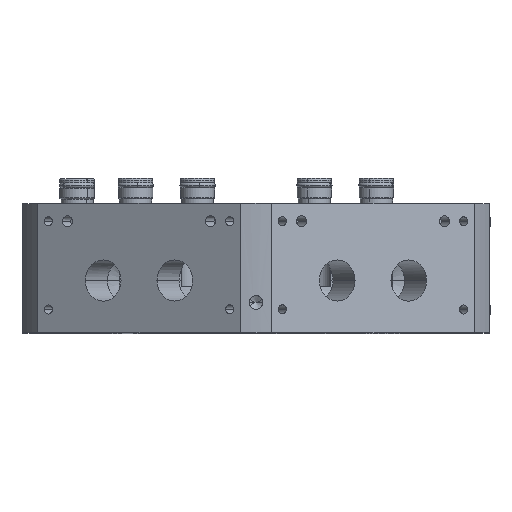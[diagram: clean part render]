
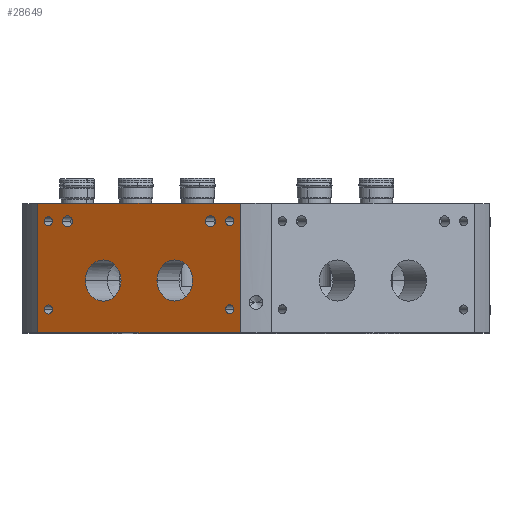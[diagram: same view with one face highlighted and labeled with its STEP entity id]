
A CAD part, top view. The second image highlights one B-rep face of the part: STEP entity #28649.
In plain terms, the highlighted planar face has unit normal (-0.5, 0, 0.866).
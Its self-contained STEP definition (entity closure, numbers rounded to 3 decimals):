
#3757=LINE('',#73834,#5422);
#3758=LINE('',#73837,#5423);
#3759=LINE('',#73839,#5424);
#3760=LINE('',#73841,#5425);
#5422=VECTOR('',#40162,1000.);
#5423=VECTOR('',#40163,1000.);
#5424=VECTOR('',#40164,1000.);
#5425=VECTOR('',#40165,1000.);
#12516=ORIENTED_EDGE('',*,*,#17904,.T.);
#12517=ORIENTED_EDGE('',*,*,#17905,.F.);
#12518=ORIENTED_EDGE('',*,*,#17906,.F.);
#12519=ORIENTED_EDGE('',*,*,#17907,.T.);
#12520=ORIENTED_EDGE('',*,*,#17840,.F.);
#12521=ORIENTED_EDGE('',*,*,#17908,.F.);
#12522=ORIENTED_EDGE('',*,*,#17831,.F.);
#12523=ORIENTED_EDGE('',*,*,#17909,.F.);
#12524=ORIENTED_EDGE('',*,*,#17476,.F.);
#12525=ORIENTED_EDGE('',*,*,#17910,.F.);
#12526=ORIENTED_EDGE('',*,*,#17466,.F.);
#12527=ORIENTED_EDGE('',*,*,#17911,.F.);
#12528=ORIENTED_EDGE('',*,*,#17462,.F.);
#12529=ORIENTED_EDGE('',*,*,#17912,.F.);
#12530=ORIENTED_EDGE('',*,*,#17455,.F.);
#12531=ORIENTED_EDGE('',*,*,#17913,.F.);
#12532=ORIENTED_EDGE('',*,*,#17368,.F.);
#12533=ORIENTED_EDGE('',*,*,#17914,.F.);
#12534=ORIENTED_EDGE('',*,*,#17363,.F.);
#12535=ORIENTED_EDGE('',*,*,#17915,.F.);
#17363=EDGE_CURVE('',#20435,#20433,#22201,.T.);
#17368=EDGE_CURVE('',#20439,#20437,#22204,.T.);
#17455=EDGE_CURVE('',#20512,#20510,#22237,.T.);
#17462=EDGE_CURVE('',#20518,#20515,#22238,.T.);
#17466=EDGE_CURVE('',#20522,#20520,#22240,.T.);
#17476=EDGE_CURVE('',#20530,#20528,#22243,.T.);
#17831=EDGE_CURVE('',#20804,#20800,#22464,.T.);
#17840=EDGE_CURVE('',#20812,#20808,#22467,.T.);
#17904=EDGE_CURVE('',#20841,#20842,#3757,.T.);
#17905=EDGE_CURVE('',#20843,#20842,#3758,.T.);
#17906=EDGE_CURVE('',#20844,#20843,#3759,.T.);
#17907=EDGE_CURVE('',#20844,#20841,#3760,.T.);
#17908=EDGE_CURVE('',#20808,#20812,#22505,.T.);
#17909=EDGE_CURVE('',#20800,#20804,#22506,.T.);
#17910=EDGE_CURVE('',#20528,#20530,#22507,.T.);
#17911=EDGE_CURVE('',#20520,#20522,#22508,.T.);
#17912=EDGE_CURVE('',#20515,#20518,#22509,.T.);
#17913=EDGE_CURVE('',#20510,#20512,#22510,.T.);
#17914=EDGE_CURVE('',#20437,#20439,#22511,.T.);
#17915=EDGE_CURVE('',#20433,#20435,#22512,.T.);
#20433=VERTEX_POINT('',#72087);
#20435=VERTEX_POINT('',#72091);
#20437=VERTEX_POINT('',#72098);
#20439=VERTEX_POINT('',#72102);
#20510=VERTEX_POINT('',#72337);
#20512=VERTEX_POINT('',#72341);
#20515=VERTEX_POINT('',#72350);
#20518=VERTEX_POINT('',#72385);
#20520=VERTEX_POINT('',#72390);
#20522=VERTEX_POINT('',#72394);
#20528=VERTEX_POINT('',#72418);
#20530=VERTEX_POINT('',#72432);
#20800=VERTEX_POINT('',#73568);
#20804=VERTEX_POINT('',#73595);
#20808=VERTEX_POINT('',#73609);
#20812=VERTEX_POINT('',#73639);
#20841=VERTEX_POINT('',#73835);
#20842=VERTEX_POINT('',#73836);
#20843=VERTEX_POINT('',#73838);
#20844=VERTEX_POINT('',#73840);
#22201=CIRCLE('',#31862,2.031);
#22204=CIRCLE('',#31867,2.031);
#22237=CIRCLE('',#31929,1.65);
#22238=CIRCLE('',#31932,1.65);
#22240=CIRCLE('',#31935,1.65);
#22243=CIRCLE('',#31941,1.65);
#22464=CIRCLE('',#32261,7.475);
#22467=CIRCLE('',#32266,7.475);
#22505=CIRCLE('',#32316,7.475);
#22506=CIRCLE('',#32317,7.475);
#22507=CIRCLE('',#32318,1.65);
#22508=CIRCLE('',#32319,1.65);
#22509=CIRCLE('',#32320,1.65);
#22510=CIRCLE('',#32321,1.65);
#22511=CIRCLE('',#32322,2.031);
#22512=CIRCLE('',#32323,2.031);
#24385=EDGE_LOOP('',(#12516,#12517,#12518,#12519));
#24386=EDGE_LOOP('',(#12520,#12521));
#24387=EDGE_LOOP('',(#12522,#12523));
#24388=EDGE_LOOP('',(#12524,#12525));
#24389=EDGE_LOOP('',(#12526,#12527));
#24390=EDGE_LOOP('',(#12528,#12529));
#24391=EDGE_LOOP('',(#12530,#12531));
#24392=EDGE_LOOP('',(#12532,#12533));
#24393=EDGE_LOOP('',(#12534,#12535));
#26403=FACE_BOUND('',#24385,.T.);
#26404=FACE_BOUND('',#24386,.T.);
#26405=FACE_BOUND('',#24387,.T.);
#26406=FACE_BOUND('',#24388,.T.);
#26407=FACE_BOUND('',#24389,.T.);
#26408=FACE_BOUND('',#24390,.T.);
#26409=FACE_BOUND('',#24391,.T.);
#26410=FACE_BOUND('',#24392,.T.);
#26411=FACE_BOUND('',#24393,.T.);
#27138=PLANE('',#32315);
#28649=ADVANCED_FACE('',(#26403,#26404,#26405,#26406,#26407,#26408,#26409,
#26410,#26411),#27138,.F.);
#31862=AXIS2_PLACEMENT_3D('',#72092,#39065,#39066);
#31867=AXIS2_PLACEMENT_3D('',#72103,#39077,#39078);
#31929=AXIS2_PLACEMENT_3D('',#72342,#39251,#39252);
#31932=AXIS2_PLACEMENT_3D('',#72386,#39261,#39262);
#31935=AXIS2_PLACEMENT_3D('',#72395,#39269,#39270);
#31941=AXIS2_PLACEMENT_3D('',#72433,#39286,#39287);
#32261=AXIS2_PLACEMENT_3D('',#73596,#40029,#40030);
#32266=AXIS2_PLACEMENT_3D('',#73640,#40042,#40043);
#32315=AXIS2_PLACEMENT_3D('',#73833,#40160,#40161);
#32316=AXIS2_PLACEMENT_3D('',#73842,#40166,#40167);
#32317=AXIS2_PLACEMENT_3D('',#73843,#40168,#40169);
#32318=AXIS2_PLACEMENT_3D('',#73844,#40170,#40171);
#32319=AXIS2_PLACEMENT_3D('',#73845,#40172,#40173);
#32320=AXIS2_PLACEMENT_3D('',#73846,#40174,#40175);
#32321=AXIS2_PLACEMENT_3D('',#73847,#40176,#40177);
#32322=AXIS2_PLACEMENT_3D('',#73848,#40178,#40179);
#32323=AXIS2_PLACEMENT_3D('',#73849,#40180,#40181);
#39065=DIRECTION('',(-0.5,0.,0.866));
#39066=DIRECTION('',(0.866,0.,0.5));
#39077=DIRECTION('',(-0.5,0.,0.866));
#39078=DIRECTION('',(0.866,0.,0.5));
#39251=DIRECTION('',(-0.5,0.,0.866));
#39252=DIRECTION('',(0.866,0.,0.5));
#39261=DIRECTION('',(-0.5,0.,0.866));
#39262=DIRECTION('',(0.866,0.,0.5));
#39269=DIRECTION('',(-0.5,0.,0.866));
#39270=DIRECTION('',(0.866,0.,0.5));
#39286=DIRECTION('',(-0.5,0.,0.866));
#39287=DIRECTION('',(0.866,0.,0.5));
#40029=DIRECTION('',(-0.5,0.,0.866));
#40030=DIRECTION('',(0.866,0.,0.5));
#40042=DIRECTION('',(-0.5,0.,0.866));
#40043=DIRECTION('',(0.866,0.,0.5));
#40160=DIRECTION('',(0.5,0.,-0.866));
#40161=DIRECTION('',(-0.866,0.,-0.5));
#40162=DIRECTION('',(0.866,0.,0.5));
#40163=DIRECTION('',(0.,-1.,0.));
#40164=DIRECTION('',(0.866,0.,0.5));
#40165=DIRECTION('',(0.,-1.,0.));
#40166=DIRECTION('',(-0.5,0.,0.866));
#40167=DIRECTION('',(0.866,0.,0.5));
#40168=DIRECTION('',(-0.5,0.,0.866));
#40169=DIRECTION('',(0.866,0.,0.5));
#40170=DIRECTION('',(-0.5,0.,0.866));
#40171=DIRECTION('',(0.866,0.,0.5));
#40172=DIRECTION('',(-0.5,0.,0.866));
#40173=DIRECTION('',(0.866,0.,0.5));
#40174=DIRECTION('',(-0.5,0.,0.866));
#40175=DIRECTION('',(0.866,0.,0.5));
#40176=DIRECTION('',(-0.5,0.,0.866));
#40177=DIRECTION('',(0.866,0.,0.5));
#40178=DIRECTION('',(-0.5,0.,0.866));
#40179=DIRECTION('',(0.866,0.,0.5));
#40180=DIRECTION('',(-0.5,0.,0.866));
#40181=DIRECTION('',(0.866,0.,0.5));
#72087=CARTESIAN_POINT('',(-70.24,40.5,57.597));
#72091=CARTESIAN_POINT('',(-66.722,40.5,59.628));
#72092=CARTESIAN_POINT('',(-68.481,40.5,58.612));
#72098=CARTESIAN_POINT('',(-18.278,40.5,87.597));
#72102=CARTESIAN_POINT('',(-14.76,40.5,89.628));
#72103=CARTESIAN_POINT('',(-16.519,40.5,88.612));
#72337=CARTESIAN_POINT('',(-76.838,40.5,53.787));
#72341=CARTESIAN_POINT('',(-73.98,40.5,55.437));
#72342=CARTESIAN_POINT('',(-75.409,40.5,54.612));
#72350=CARTESIAN_POINT('',(-11.02,40.5,91.787));
#72385=CARTESIAN_POINT('',(-8.162,40.5,93.437));
#72386=CARTESIAN_POINT('',(-9.591,40.5,92.612));
#72390=CARTESIAN_POINT('',(-76.838,8.5,53.787));
#72394=CARTESIAN_POINT('',(-73.98,8.5,55.437));
#72395=CARTESIAN_POINT('',(-75.409,8.5,54.612));
#72418=CARTESIAN_POINT('',(-11.02,8.5,91.787));
#72432=CARTESIAN_POINT('',(-8.162,8.5,93.437));
#72433=CARTESIAN_POINT('',(-9.591,8.5,92.612));
#73568=CARTESIAN_POINT('',(-61.964,19.,62.375));
#73595=CARTESIAN_POINT('',(-49.017,19.,69.85));
#73596=CARTESIAN_POINT('',(-55.49,19.,66.112));
#73609=CARTESIAN_POINT('',(-35.983,19.,77.375));
#73639=CARTESIAN_POINT('',(-23.036,19.,84.85));
#73640=CARTESIAN_POINT('',(-29.51,19.,81.112));
#73833=CARTESIAN_POINT('',(-5.758,47.,94.825));
#73834=CARTESIAN_POINT('',(-5.758,0.,94.825));
#73835=CARTESIAN_POINT('',(-79.242,0.,52.399));
#73836=CARTESIAN_POINT('',(-5.758,0.,94.825));
#73837=CARTESIAN_POINT('',(-5.758,47.,94.825));
#73838=CARTESIAN_POINT('',(-5.758,47.,94.825));
#73839=CARTESIAN_POINT('',(-5.758,47.,94.825));
#73840=CARTESIAN_POINT('',(-79.242,47.,52.399));
#73841=CARTESIAN_POINT('',(-79.242,47.,52.399));
#73842=CARTESIAN_POINT('',(-29.51,19.,81.112));
#73843=CARTESIAN_POINT('',(-55.49,19.,66.112));
#73844=CARTESIAN_POINT('',(-9.591,8.5,92.612));
#73845=CARTESIAN_POINT('',(-75.409,8.5,54.612));
#73846=CARTESIAN_POINT('',(-9.591,40.5,92.612));
#73847=CARTESIAN_POINT('',(-75.409,40.5,54.612));
#73848=CARTESIAN_POINT('',(-16.519,40.5,88.612));
#73849=CARTESIAN_POINT('',(-68.481,40.5,58.612));
